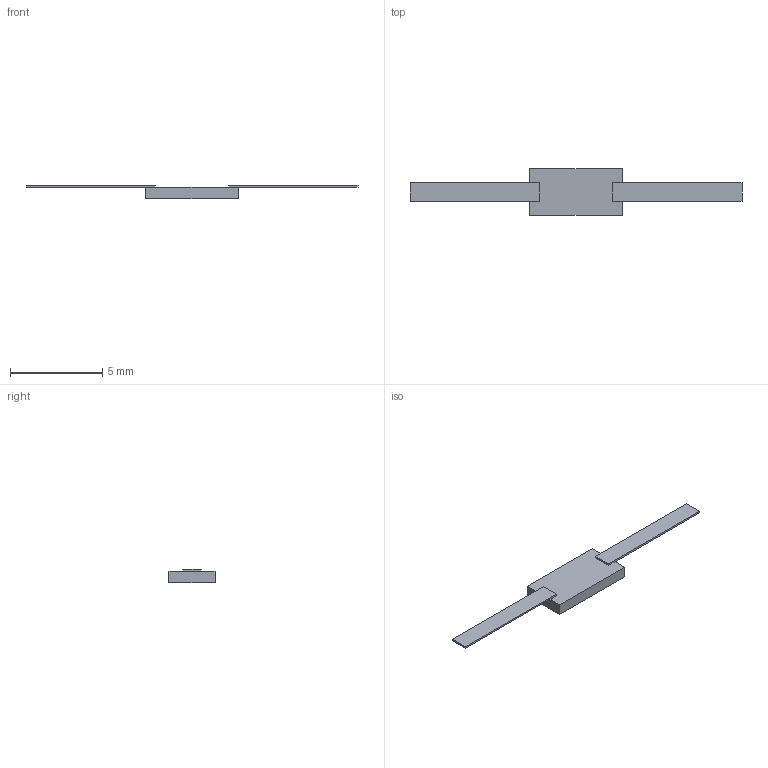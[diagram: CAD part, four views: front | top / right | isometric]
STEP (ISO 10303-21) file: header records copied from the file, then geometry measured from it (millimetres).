
FILE_DESCRIPTION(('STEP AP203'), '1');
FILE_NAME('P1-170-20-06', '', ('UNSPECIFIED'), ('UNSPECIFIED'), 'ASCON STEP Converter 1.6', 'ASCON Math Kernel', '');
FILE_SCHEMA(('CONFIG_CONTROL_DESIGN'));
Length unit declared in the file: millimetre
Bounding box: 18 x 2.5 x 0.73 mm (x, y, z)
Volume: 9.3 mm3; surface area: 63.7 mm2
Topology: 1 solids, 1 shells, 18 faces, 44 edges, 28 vertices
Faces by surface type: plane 18
Entity records: 704 total; most frequent: CARTESIAN_POINT 91, ORIENTED_EDGE 88, DIRECTION 82, EDGE_CURVE 44, LINE 44, VECTOR 44, VERTEX_POINT 28, AXIS2_PLACEMENT_3D 19
